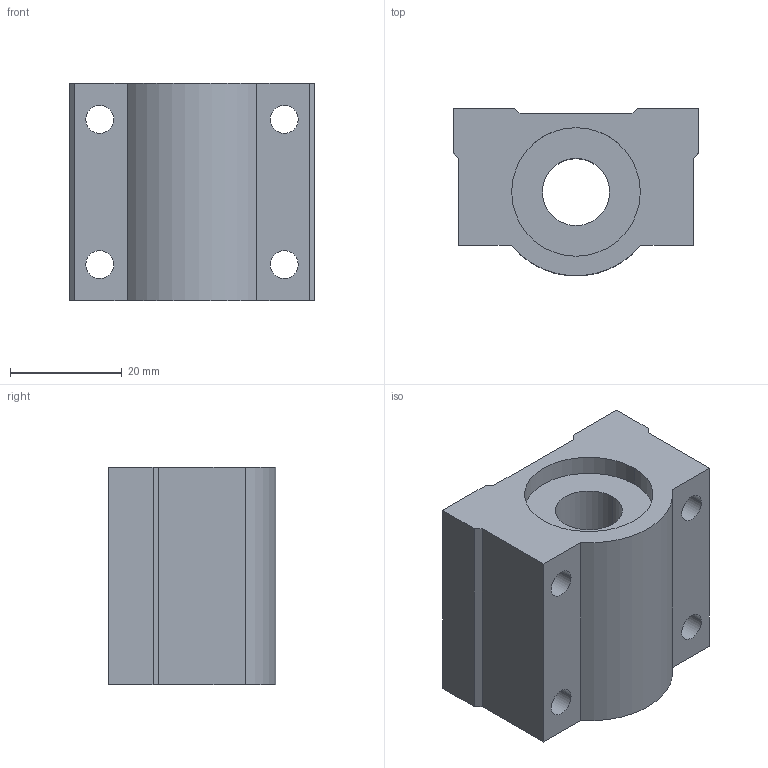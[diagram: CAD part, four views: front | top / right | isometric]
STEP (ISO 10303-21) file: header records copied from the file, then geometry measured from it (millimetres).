
FILE_DESCRIPTION((''),'2;1');
FILE_NAME('C:\Documents and Settings\ｿﾀﾀ蠑ｷ1\ｹﾙﾅﾁ ﾈｭｸ饅\ｺﾎﾇｰﾆﾄﾀﾏ\ﾁｦﾇｰ\SCE_UU\SCE12UU.stp','2005-06-22T15:38:31',('ｿﾀﾀ蠑ｷ1'),(''),'Autodesk Inventor 9','Autodesk Inventor 9','');
FILE_SCHEMA(('AUTOMOTIVE_DESIGN { 1 0 10303 214 1 1 1 1 }'));
Length unit declared in the file: millimetre
Products named in the file (1): SCE__UU
Bounding box: 44 x 29.95 x 39 mm (x, y, z)
Volume: 34988.1 mm3; surface area: 10555.3 mm2
Topology: 1 solids, 1 shells, 32 faces, 84 edges, 56 vertices
Faces by surface type: plane 17, bspline 8, cylinder 7
Entity records: 1145 total; most frequent: CARTESIAN_POINT 309, ORIENTED_EDGE 168, DIRECTION 164, EDGE_CURVE 84, VERTEX_POINT 56, AXIS2_PLACEMENT_3D 55, VECTOR 54, LINE 54
